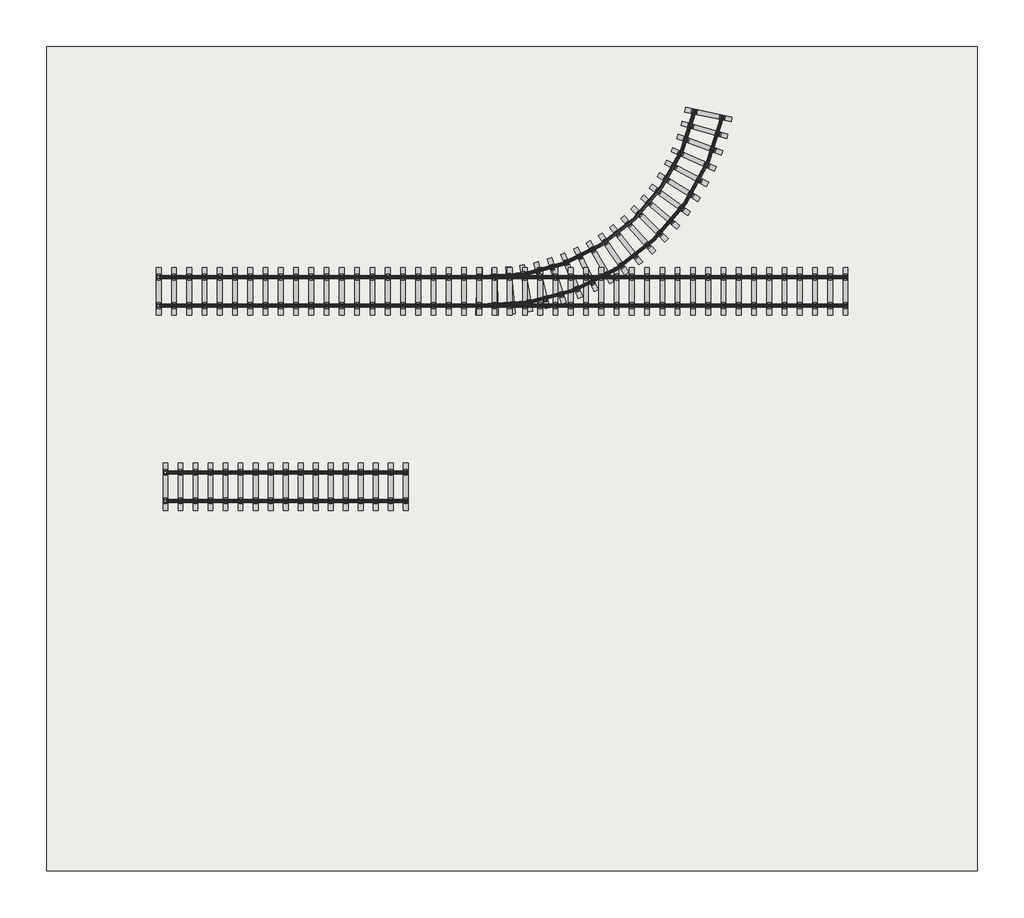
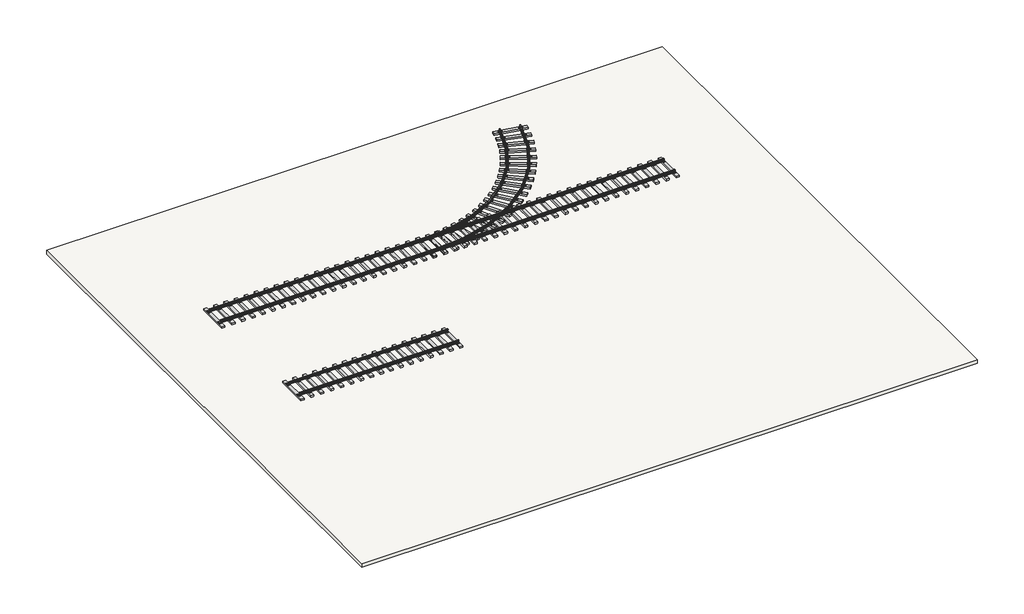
# One storey, incomplete: 3 railings, 1 slab.
"""IFC4 building model written with IfcOpenShell, lengths in millimetres."""

from ifc_helpers import new_model, si_unit, frame, origin, place, context, project, spatial, polyline, outline, extrude, transform, mapped, element, save
from components import railing_398ba902, railing_1b08457a, railing_31aec477, railing_4d6f0e60

model = new_model("IFC4")

# Units and contexts
model_context = context("Model", 3, world=origin())
ifc_project = project(units=[si_unit("LENGTHUNIT", "METRE", prefix="MILLI")], contexts=[model_context])

# Site, building, storey
site = spatial("IfcSite", under=ifc_project)
building = spatial("IfcBuilding", under=site)
storey = spatial("IfcBuildingStorey", under=building, Name="Podlaží 1", Elevation=0.0)

# Railings
placement = place(None, origin())
railing_shape = railing_398ba902(model_context)
element("IfcRailing", 1, ObjectType="Koleje", at=placement, inside=storey, context=model_context, shape_type="MappedRepresentation", body=[
    mapped(railing_shape, transform((0.0, 0.0, 0.0), x_axis=(1.0, 0.0, 0.0), y_axis=(0.0, 1.0, 0.0), z_axis=(0.0, 0.0, 1.0))),
])
railing_2_shape = railing_1b08457a(model_context)
railing_3_shape = railing_31aec477(model_context)
element("IfcRailing", 2, ObjectType="Koleje", at=placement, inside=storey, context=model_context, shape_type="MappedRepresentation", body=[
    mapped(railing_2_shape, transform((0.0, 0.0, 0.0), x_axis=(1.0, 0.0, 0.0), y_axis=(0.0, 1.0, 0.0), z_axis=(0.0, 0.0, 1.0))),
    mapped(railing_3_shape, transform((0.0, 0.0, 0.0), x_axis=(1.0, 0.0, 0.0), y_axis=(0.0, 1.0, 0.0), z_axis=(0.0, 0.0, 1.0))),
])
railing_4_shape = railing_4d6f0e60(model_context)
element("IfcRailing", 3, ObjectType="Koleje", at=placement, inside=storey, context=model_context, shape_type="MappedRepresentation", body=[
    mapped(railing_4_shape, transform((0.0, 0.0, 0.0), x_axis=(1.0, 0.0, 0.0), y_axis=(0.0, 1.0, 0.0), z_axis=(0.0, 0.0, 1.0))),
])

# Slab
element("IfcSlab", 4, ObjectType="Podlaha 1", at=placement, inside=storey, context=model_context, shape_type="SweptSolid", body=[
    extrude(outline(polyline([(70166.4526023, 39139.7713888), (70166.4526023, -4460.2286112), (20966.4526023, -4460.2286112), (20966.4526023, 39139.7713888), (70166.4526023, 39139.7713888)])), frame((0.0, 0.0, -450.0), z_axis=(0.0, 0.0, 1.0), x_axis=(1.0, 0.0, 0.0)), (0.0, 0.0, 1.0), 300.0),
])

save(model, "model.ifc")
